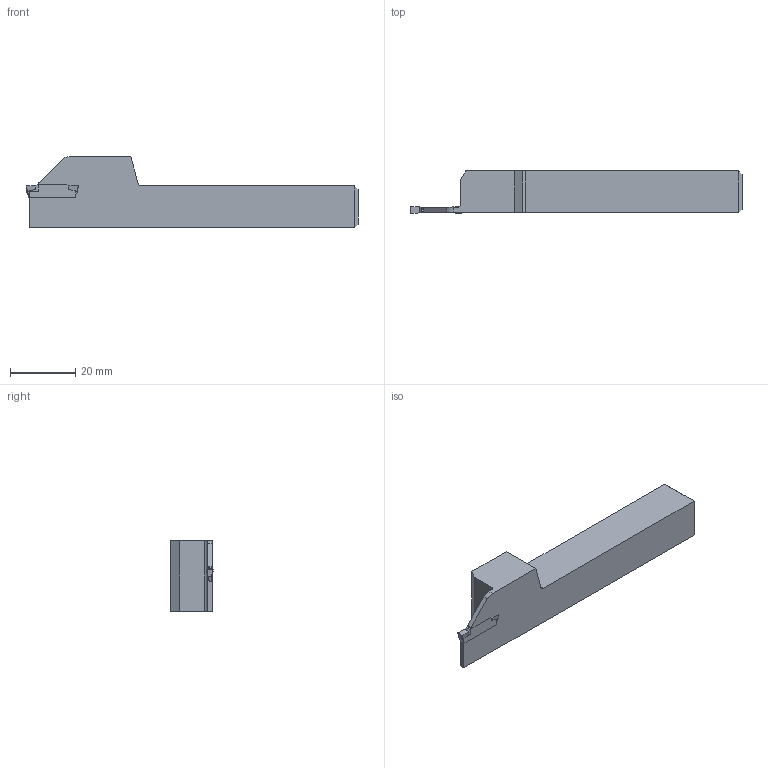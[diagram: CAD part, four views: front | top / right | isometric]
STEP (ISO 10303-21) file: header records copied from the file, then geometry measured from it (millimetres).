
FILE_DESCRIPTION(/* description */ (''),/* implementation_level */ '2;1');
FILE_NAME(/* name */ 'MGEHR08-2-HAAS_20200625.stp',/* time_stamp */ '2020-11-18T15:29:34+09:00',/* author */ (''),/* organization */ (''),/* preprocessor_version */ 'ST-DEVELOPER v11',/* originating_system */ 'SIEMENS UGS NX 6.0',/* authorisation */ '');
FILE_SCHEMA (('CONFIG_CONTROL_DESIGN'));
Length unit declared in the file: millimetre
Products named in the file (1): user1992z9n5
Bounding box: 101.6 x 12.95 x 21.7 mm (x, y, z)
Volume: 16327.2 mm3; surface area: 5862.6 mm2
Topology: 2 solids, 4 shells, 64 faces, 160 edges, 104 vertices
Faces by surface type: plane 46, cylinder 16, bspline 2
Entity records: 2028 total; most frequent: CARTESIAN_POINT 411, ORIENTED_EDGE 320, DIRECTION 308, EDGE_CURVE 160, LINE 118, VECTOR 118, VERTEX_POINT 104, AXIS2_PLACEMENT_3D 95
